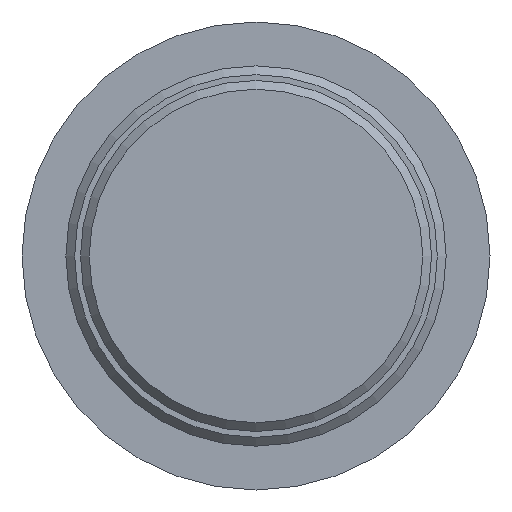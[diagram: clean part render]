
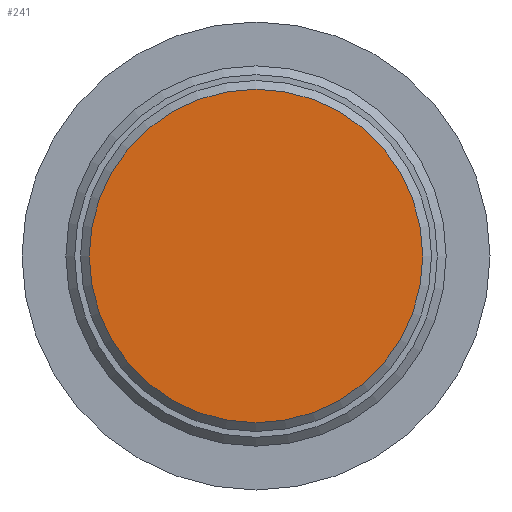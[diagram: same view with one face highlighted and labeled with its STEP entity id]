
A CAD part, front view. The second image highlights one B-rep face of the part: STEP entity #241.
In plain terms, the highlighted planar face has unit normal (0, -1, 0).
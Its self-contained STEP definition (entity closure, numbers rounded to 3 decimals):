
#198=CARTESIAN_POINT('',(-5.7,0.,0.));
#199=VERTEX_POINT('',#198);
#200=CARTESIAN_POINT('',(0.0,0.,0.0));
#201=DIRECTION('',(0.0,1.0,0.0));
#202=DIRECTION('',(1.0,0.0,0.0));
#203=AXIS2_PLACEMENT_3D('',#200,#201,#202);
#204=CIRCLE('',#203,5.7);
#205=EDGE_CURVE('',#199,#199,#204,.T.);
#233=CARTESIAN_POINT('',(-3.,0.,0.0));
#234=DIRECTION('',(0.0,-1.0,0.0));
#235=DIRECTION('',(0.0,0.0,-1.0));
#236=AXIS2_PLACEMENT_3D('',#233,#234,#235);
#237=PLANE('',#236);
#238=ORIENTED_EDGE('',*,*,#205,.F.);
#239=EDGE_LOOP('',(#238));
#240=FACE_OUTER_BOUND('',#239,.T.);
#241=ADVANCED_FACE('',(#240),#237,.T.);
